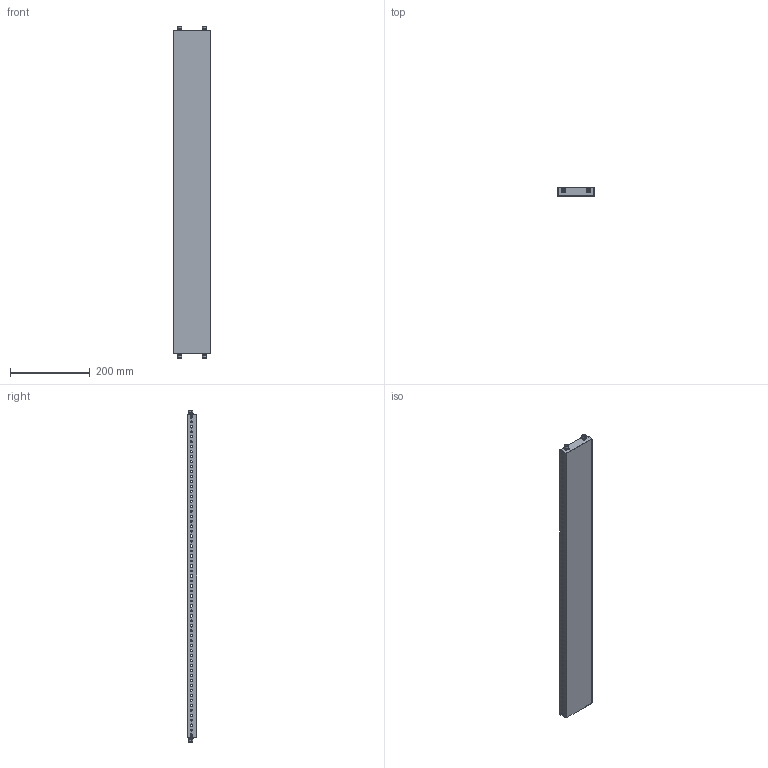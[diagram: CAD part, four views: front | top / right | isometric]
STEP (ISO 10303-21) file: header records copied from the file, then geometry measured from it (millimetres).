
FILE_DESCRIPTION(('Open CASCADE Model'),'2;1');
FILE_NAME('Open CASCADE Shape Model','2025-02-27T10:31:42',('Author'),( 'Open CASCADE'),'Open CASCADE STEP processor 7.8','Open CASCADE 7.8' ,'Unknown');
FILE_SCHEMA(('AUTOMOTIVE_DESIGN { 1 0 10303 214 1 1 1 1 }'));
Length unit declared in the file: millimetre
Products named in the file (5): Compound1; Solid1; Solid2; Solid3; Solid4
Assembly tree (13 placements, depth 2):
  Compound1
    Solid1
    Solid2  x4
    Solid3  x4
    Solid4  x4
Bounding box: 92.5 x 23 x 834.2 mm (x, y, z)
Volume: 171876.3 mm3; surface area: 235296.8 mm2
Topology: 13 solids, 13 shells, 910 faces, 2576 edges, 1684 vertices
Faces by surface type: cylinder 516, plane 346, cone 32, torus 16
Entity records: 16788 total; most frequent: CARTESIAN_POINT 3024, DIRECTION 2978, ORIENTED_EDGE 2760, EDGE_CURVE 1380, AXIS2_PLACEMENT_3D 1161, VERTEX_POINT 913, FACE_BOUND 751, EDGE_LOOP 751
